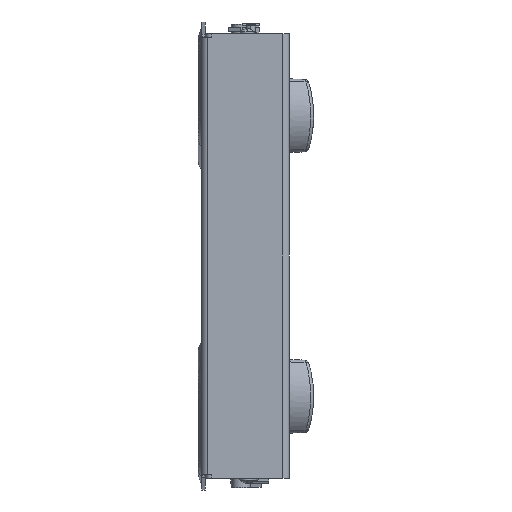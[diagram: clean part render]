
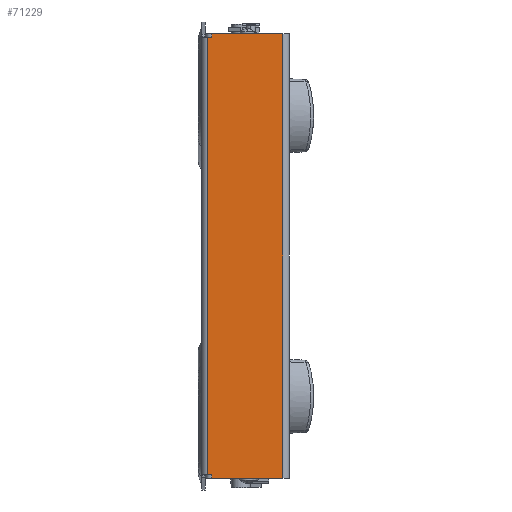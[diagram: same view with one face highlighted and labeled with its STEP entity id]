
A CAD part, left-side view. The second image highlights one B-rep face of the part: STEP entity #71229.
In plain terms, the highlighted planar face has unit normal (-1, 0, 0).
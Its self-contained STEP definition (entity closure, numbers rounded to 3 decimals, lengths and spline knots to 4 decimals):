
#1423=DIRECTION('',(0.,-1.,0.));
#1424=VECTOR('',#1423,1.14);
#1425=CARTESIAN_POINT('',(-3.365,1.24,7.042));
#1426=LINE('',#1425,#1424);
#1629=DIRECTION('',(0.,1.,0.));
#1630=VECTOR('',#1629,1.14);
#1631=CARTESIAN_POINT('',(-3.365,0.1,-0.06));
#1632=LINE('',#1631,#1630);
#28869=DIRECTION('',(0.,0.,-1.));
#28870=VECTOR('',#28869,0.06);
#28871=CARTESIAN_POINT('',(-3.365,1.24,0.));
#28872=LINE('',#28871,#28870);
#28891=DIRECTION('',(0.,-1.,0.));
#28892=VECTOR('',#28891,0.06);
#28893=CARTESIAN_POINT('',(-3.365,1.3,0.));
#28894=LINE('',#28893,#28892);
#28904=DIRECTION('',(0.,-1.,0.));
#28905=VECTOR('',#28904,0.06);
#28906=CARTESIAN_POINT('',(-3.365,1.3,6.982));
#28907=LINE('',#28906,#28905);
#28921=DIRECTION('',(0.,0.,1.));
#28922=VECTOR('',#28921,0.06);
#28923=CARTESIAN_POINT('',(-3.365,1.24,6.982));
#28924=LINE('',#28923,#28922);
#28925=DIRECTION('',(0.,0.,1.));
#28926=VECTOR('',#28925,7.102);
#28927=CARTESIAN_POINT('',(-3.365,0.1,-0.06));
#28928=LINE('',#28927,#28926);
#33985=DIRECTION('',(0.,0.,-1.));
#33986=VECTOR('',#33985,6.982);
#33987=CARTESIAN_POINT('',(-3.365,1.3,6.982));
#33988=LINE('',#33987,#33986);
#39591=CARTESIAN_POINT('',(-3.365,1.3,0.));
#39593=VERTEX_POINT('',#39591);
#39597=CARTESIAN_POINT('',(-3.365,1.3,6.982));
#39598=VERTEX_POINT('',#39597);
#41255=CARTESIAN_POINT('',(-3.365,1.24,-0.06));
#41257=VERTEX_POINT('',#41255);
#41260=CARTESIAN_POINT('',(-3.365,0.1,-0.06));
#41262=VERTEX_POINT('',#41260);
#41327=CARTESIAN_POINT('',(-3.365,1.24,0.));
#41329=VERTEX_POINT('',#41327);
#41455=CARTESIAN_POINT('',(-3.365,0.1,7.042));
#41457=VERTEX_POINT('',#41455);
#41460=CARTESIAN_POINT('',(-3.365,1.24,7.042));
#41462=VERTEX_POINT('',#41460);
#41504=CARTESIAN_POINT('',(-3.365,1.24,6.982));
#41506=VERTEX_POINT('',#41504);
#71212=CARTESIAN_POINT('',(-3.365,1.4,0.));
#71213=DIRECTION('',(-1.,0.,0.));
#71214=DIRECTION('',(0.,-1.,0.));
#71215=AXIS2_PLACEMENT_3D('',#71212,#71213,#71214);
#71216=PLANE('',#71215);
#71217=ORIENTED_EDGE('',*,*,#71191,.T.);
#71218=ORIENTED_EDGE('',*,*,#71207,.T.);
#71219=ORIENTED_EDGE('',*,*,#45681,.T.);
#71221=ORIENTED_EDGE('',*,*,#71220,.F.);
#71222=ORIENTED_EDGE('',*,*,#45839,.T.);
#71223=ORIENTED_EDGE('',*,*,#71148,.F.);
#71224=ORIENTED_EDGE('',*,*,#71165,.F.);
#71226=ORIENTED_EDGE('',*,*,#71225,.F.);
#71227=EDGE_LOOP('',(#71217,#71218,#71219,#71221,#71222,#71223,#71224,#71226));
#71228=FACE_OUTER_BOUND('',#71227,.F.);
#71229=ADVANCED_FACE('',(#71228),#71216,.T.);
#45681=EDGE_CURVE('',#41462,#41457,#1426,.T.);
#45839=EDGE_CURVE('',#41262,#41257,#1632,.T.);
#71148=EDGE_CURVE('',#41329,#41257,#28872,.T.);
#71165=EDGE_CURVE('',#39593,#41329,#28894,.T.);
#71191=EDGE_CURVE('',#39598,#41506,#28907,.T.);
#71207=EDGE_CURVE('',#41506,#41462,#28924,.T.);
#71220=EDGE_CURVE('',#41262,#41457,#28928,.T.);
#71225=EDGE_CURVE('',#39598,#39593,#33988,.T.);
